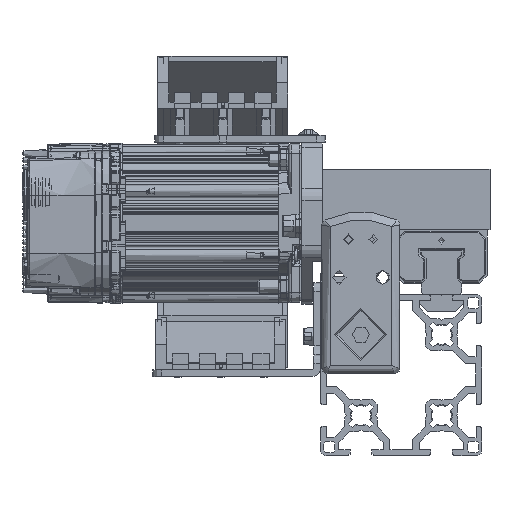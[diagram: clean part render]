
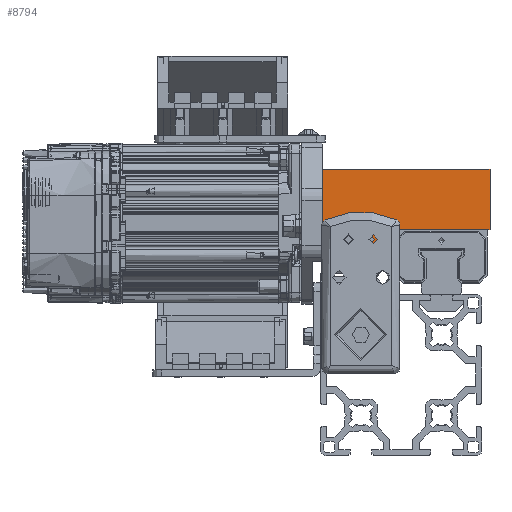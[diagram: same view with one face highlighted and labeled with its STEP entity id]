
A CAD part, front view. The second image highlights one B-rep face of the part: STEP entity #8794.
In plain terms, the highlighted planar face has unit normal (0, -1, 0) as drawn and (1, 0, 0) by its records, which use the part's own axes.
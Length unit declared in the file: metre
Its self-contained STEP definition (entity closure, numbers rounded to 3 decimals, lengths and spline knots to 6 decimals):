
#8794 = ADVANCED_FACE( '', ( #21650 ), #21651, .F. );
#21650 = FACE_OUTER_BOUND( '', #43790, .T. );
#21651 = PLANE( '', #43791 );
#43790 = EDGE_LOOP( '', ( #123337, #123338, #123339, #123340, #123341, #123342, #123343, #123344, #123345, #123346, #123347, #123348 ) );
#43791 = AXIS2_PLACEMENT_3D( '', #123349, #123350, #123351 );
#123337 = ORIENTED_EDGE( '', *, *, #168090, .F. );
#123338 = ORIENTED_EDGE( '', *, *, #168091, .F. );
#123339 = ORIENTED_EDGE( '', *, *, #168092, .T. );
#123340 = ORIENTED_EDGE( '', *, *, #168093, .T. );
#123341 = ORIENTED_EDGE( '', *, *, #168094, .T. );
#123342 = ORIENTED_EDGE( '', *, *, #168095, .F. );
#123343 = ORIENTED_EDGE( '', *, *, #168096, .F. );
#123344 = ORIENTED_EDGE( '', *, *, #168097, .F. );
#123345 = ORIENTED_EDGE( '', *, *, #168098, .T. );
#123346 = ORIENTED_EDGE( '', *, *, #168099, .T. );
#123347 = ORIENTED_EDGE( '', *, *, #168100, .F. );
#123348 = ORIENTED_EDGE( '', *, *, #168101, .T. );
#123349 = CARTESIAN_POINT( '', ( 0.08, -0.01778, 0.021613 ) );
#123350 = DIRECTION( '', ( -1., 0., 0. ) );
#123351 = DIRECTION( '', ( 0., 0., -1. ) );
#168090 = EDGE_CURVE( '', #189005, #189006, #189007, .T. );
#168091 = EDGE_CURVE( '', #189008, #189005, #189009, .T. );
#168092 = EDGE_CURVE( '', #189008, #189010, #189011, .T. );
#168093 = EDGE_CURVE( '', #189010, #189012, #189013, .T. );
#168094 = EDGE_CURVE( '', #189012, #189014, #189015, .T. );
#168095 = EDGE_CURVE( '', #189016, #189014, #189017, .T. );
#168096 = EDGE_CURVE( '', #189018, #189016, #189019, .T. );
#168097 = EDGE_CURVE( '', #189020, #189018, #189021, .T. );
#168098 = EDGE_CURVE( '', #189020, #189022, #189023, .T. );
#168099 = EDGE_CURVE( '', #189022, #189024, #189025, .T. );
#168100 = EDGE_CURVE( '', #189026, #189024, #189027, .T. );
#168101 = EDGE_CURVE( '', #189026, #189006, #189028, .T. );
#189005 = VERTEX_POINT( '', #221749 );
#189006 = VERTEX_POINT( '', #221750 );
#189007 = LINE( '', #221751, #221752 );
#189008 = VERTEX_POINT( '', #221753 );
#189009 = LINE( '', #221754, #221755 );
#189010 = VERTEX_POINT( '', #221756 );
#189011 = LINE( '', #221757, #221758 );
#189012 = VERTEX_POINT( '', #221759 );
#189013 = CIRCLE( '', #221760, 0.002083 );
#189014 = VERTEX_POINT( '', #221761 );
#189015 = LINE( '', #221762, #221763 );
#189016 = VERTEX_POINT( '', #221764 );
#189017 = LINE( '', #221765, #221766 );
#189018 = VERTEX_POINT( '', #221767 );
#189019 = LINE( '', #221768, #221769 );
#189020 = VERTEX_POINT( '', #221770 );
#189021 = LINE( '', #221771, #221772 );
#189022 = VERTEX_POINT( '', #221773 );
#189023 = LINE( '', #221774, #221775 );
#189024 = VERTEX_POINT( '', #221776 );
#189025 = LINE( '', #221777, #221778 );
#189026 = VERTEX_POINT( '', #221779 );
#189027 = LINE( '', #221780, #221781 );
#189028 = LINE( '', #221782, #221783 );
#221749 = CARTESIAN_POINT( '', ( 0.08, -0.01778, 0.022375 ) );
#221750 = CARTESIAN_POINT( '', ( 0.08, -0.019919, 0.022375 ) );
#221751 = CARTESIAN_POINT( '', ( 0.08, -0.01778, 0.022375 ) );
#221752 = VECTOR( '', #294032, 1. );
#221753 = CARTESIAN_POINT( '', ( 0.08, -0.01778, 0.019894 ) );
#221754 = CARTESIAN_POINT( '', ( 0.08, -0.01778, 0.021613 ) );
#221755 = VECTOR( '', #294033, 1. );
#221756 = CARTESIAN_POINT( '', ( 0.08, -0.016431, 0.019894 ) );
#221757 = CARTESIAN_POINT( '', ( 0.08, -0.01778, 0.019894 ) );
#221758 = VECTOR( '', #294034, 1. );
#221759 = CARTESIAN_POINT( '', ( 0.08, -0.016431, 0.016894 ) );
#221760 = AXIS2_PLACEMENT_3D( '', #294035, #294036, #294037 );
#221761 = CARTESIAN_POINT( '', ( 0.08, -0.01778, 0.016894 ) );
#221762 = CARTESIAN_POINT( '', ( 0.08, -0.01778, 0.016894 ) );
#221763 = VECTOR( '', #294038, 1. );
#221764 = CARTESIAN_POINT( '', ( 0.08, -0.01778, 0.01339 ) );
#221765 = CARTESIAN_POINT( '', ( 0.08, -0.01778, 0.021613 ) );
#221766 = VECTOR( '', #294039, 1. );
#221767 = CARTESIAN_POINT( '', ( 0.08, -0.00473, 0.01339 ) );
#221768 = CARTESIAN_POINT( '', ( 0.08, -0.01778, 0.01339 ) );
#221769 = VECTOR( '', #294040, 1. );
#221770 = CARTESIAN_POINT( '', ( 0.08, -0.00473, -0.021613 ) );
#221771 = CARTESIAN_POINT( '', ( 0.08, -0.00473, -0.021613 ) );
#221772 = VECTOR( '', #294041, 1. );
#221773 = CARTESIAN_POINT( '', ( 0.08, 0.01778, -0.021613 ) );
#221774 = CARTESIAN_POINT( '', ( 0.08, -0.01778, -0.021613 ) );
#221775 = VECTOR( '', #294042, 1. );
#221776 = CARTESIAN_POINT( '', ( 0.08, 0.01778, 0.040727 ) );
#221777 = CARTESIAN_POINT( '', ( 0.08, 0.01778, 0.021613 ) );
#221778 = VECTOR( '', #294043, 1. );
#221779 = CARTESIAN_POINT( '', ( 0.08, -0.019919, 0.040727 ) );
#221780 = CARTESIAN_POINT( '', ( 0.08, -0.019919, 0.040727 ) );
#221781 = VECTOR( '', #294044, 1. );
#221782 = CARTESIAN_POINT( '', ( 0.08, -0.019919, 0.040727 ) );
#221783 = VECTOR( '', #294045, 1. );
#294032 = DIRECTION( '', ( 0., -1., 0. ) );
#294033 = DIRECTION( '', ( 0., 0., 1. ) );
#294034 = DIRECTION( '', ( 0., 1., 0. ) );
#294035 = CARTESIAN_POINT( '', ( 0.08, -0.014986, 0.018394 ) );
#294036 = DIRECTION( '', ( -1., 0., 0. ) );
#294037 = DIRECTION( '', ( 0., 0., -1. ) );
#294038 = DIRECTION( '', ( 0., -1., 0. ) );
#294039 = DIRECTION( '', ( 0., 0., 1. ) );
#294040 = DIRECTION( '', ( 0., -1., 0. ) );
#294041 = DIRECTION( '', ( 0., 0., 1. ) );
#294042 = DIRECTION( '', ( 0., 1., 0. ) );
#294043 = DIRECTION( '', ( 0., 0., 1. ) );
#294044 = DIRECTION( '', ( 0., 1., 0. ) );
#294045 = DIRECTION( '', ( 0., 0., -1. ) );
